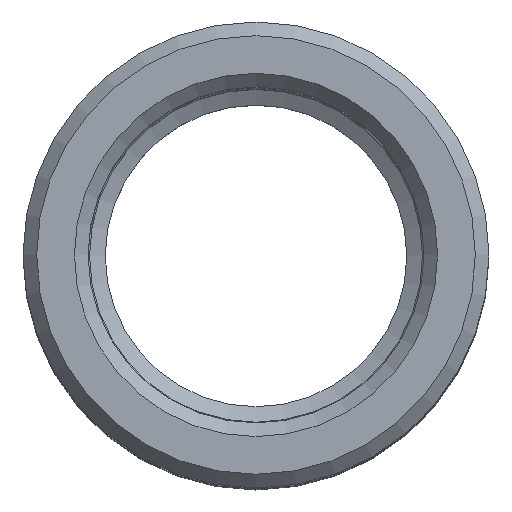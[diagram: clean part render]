
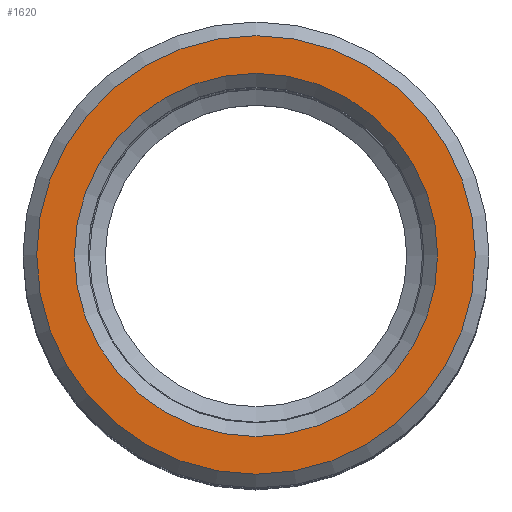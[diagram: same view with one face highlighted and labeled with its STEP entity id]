
A CAD part, top view. The second image highlights one B-rep face of the part: STEP entity #1620.
In plain terms, the highlighted planar face has unit normal (0, 0, 1).
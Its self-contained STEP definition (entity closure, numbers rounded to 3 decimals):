
#1620=ADVANCED_FACE('', (#1630,#1640), #1650, .T.);
#5410=AXIS2_PLACEMENT_3D('Ax2Pl3d', #5420, #5430, #5440);
#5450=AXIS2_PLACEMENT_3D('Ax2Pl3d', #5460, #5470, #5480);
#5490=AXIS2_PLACEMENT_3D('Ax2Pl3d', #5500, #5510, #5520);
#5420=CARTESIAN_POINT('HicPkt', (11.205,12.981,
51.172));
#7280=CARTESIAN_POINT('', (19.205,12.981,51.172));
#5460=CARTESIAN_POINT('HicPkt', (19.205,12.981,
51.172));
#5500=CARTESIAN_POINT('HicPkt', (11.205,12.981,
51.172));
#7290=CARTESIAN_POINT('', (17.83,12.981,51.172));
#7820=CIRCLE('Circle', #5410, 8.);
#7830=CIRCLE('Circle', #5490, 6.625);
#5430=DIRECTION('Axis', (0.,0.,-1.));
#5440=DIRECTION('RefDirection', (-1.,-0.,0.));
#5470=DIRECTION('Axis', (0.,0.,1.));
#5480=DIRECTION('RefDirection', (1.,0.,-0.));
#5510=DIRECTION('Axis', (0.,0.,-1.));
#5520=DIRECTION('RefDirection', (-1.,-0.,0.));
#10500=EDGE_CURVE('', #10510, #10510, #7820, .T.);
#10520=EDGE_CURVE('', #10530, #10530, #7830, .T.);
#12320=EDGE_LOOP('Edge_loop', (#12330));
#12340=EDGE_LOOP('Edge_loop', (#12350));
#1640=FACE_BOUND('', #12340, .T.);
#1630=FACE_OUTER_BOUND('Face_outer_bound', #12320, .T.);
#12330=ORIENTED_EDGE('', *, *, #10500, .F.);
#12350=ORIENTED_EDGE('', *, *, #10520, .T.);
#1650=PLANE('Plane', #5450);
#10510=VERTEX_POINT('', #7280);
#10530=VERTEX_POINT('', #7290);
